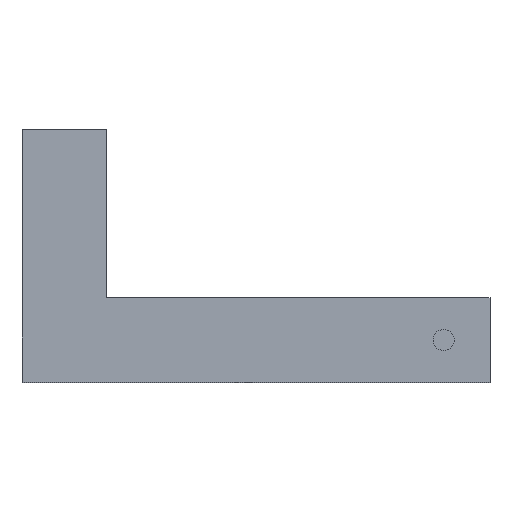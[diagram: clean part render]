
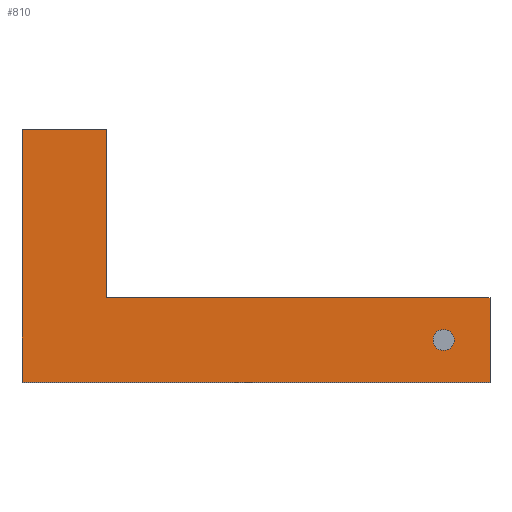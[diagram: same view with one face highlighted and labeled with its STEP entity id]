
A CAD part, top view. The second image highlights one B-rep face of the part: STEP entity #810.
In plain terms, the highlighted planar face has unit normal (0, 0, 1).
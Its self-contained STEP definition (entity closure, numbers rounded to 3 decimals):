
#4 = VERTEX_POINT ( 'NONE', #628 ) ;
#12 = LINE ( 'NONE', #55, #394 ) ;
#13 = LINE ( 'NONE', #403, #677 ) ;
#35 = EDGE_LOOP ( 'NONE', ( #773, #210 ) ) ;
#37 = LINE ( 'NONE', #427, #180 ) ;
#45 = CARTESIAN_POINT ( 'NONE',  ( 20.5, 2., 17. ) ) ;
#55 = CARTESIAN_POINT ( 'NONE',  ( 4., 12., 17. ) ) ;
#61 = DIRECTION ( 'NONE',  ( -1., 0., 0. ) ) ;
#76 = VERTEX_POINT ( 'NONE', #139 ) ;
#84 = ORIENTED_EDGE ( 'NONE', *, *, #592, .T. ) ;
#86 = VECTOR ( 'NONE', #470, 1000. ) ;
#102 = CARTESIAN_POINT ( 'NONE',  ( 4., 4., 17. ) ) ;
#138 = FACE_BOUND ( 'NONE', #35, .T. ) ;
#139 = CARTESIAN_POINT ( 'NONE',  ( 0., 0., 17. ) ) ;
#153 = DIRECTION ( 'NONE',  ( 0., -1., 0. ) ) ;
#166 = EDGE_CURVE ( 'NONE', #586, #618, #217, .T. ) ;
#171 = ORIENTED_EDGE ( 'NONE', *, *, #786, .T. ) ;
#180 = VECTOR ( 'NONE', #683, 1000. ) ;
#193 = EDGE_CURVE ( 'NONE', #4, #481, #13, .T. ) ;
#209 = DIRECTION ( 'NONE',  ( -1., 0., 0. ) ) ;
#210 = ORIENTED_EDGE ( 'NONE', *, *, #566, .F. ) ;
#213 = LINE ( 'NONE', #731, #245 ) ;
#217 = CIRCLE ( 'NONE', #428, 0.5 ) ;
#245 = VECTOR ( 'NONE', #153, 1000. ) ;
#252 = ORIENTED_EDGE ( 'NONE', *, *, #672, .T. ) ;
#268 = EDGE_LOOP ( 'NONE', ( #252, #84, #738, #643, #171, #520 ) ) ;
#280 = VECTOR ( 'NONE', #811, 1000. ) ;
#281 = CARTESIAN_POINT ( 'NONE',  ( 22.2, 0., 17. ) ) ;
#303 = CARTESIAN_POINT ( 'NONE',  ( 0., 12., 17. ) ) ;
#330 = CARTESIAN_POINT ( 'NONE',  ( 0., 12., 17. ) ) ;
#363 = AXIS2_PLACEMENT_3D ( 'NONE', #545, #604, #61 ) ;
#365 = CARTESIAN_POINT ( 'NONE',  ( 22.2, 0., 17. ) ) ;
#371 = CARTESIAN_POINT ( 'NONE',  ( 20., 2., 17. ) ) ;
#394 = VECTOR ( 'NONE', #487, 1000. ) ;
#400 = VERTEX_POINT ( 'NONE', #281 ) ;
#403 = CARTESIAN_POINT ( 'NONE',  ( 4., 4., 17. ) ) ;
#406 = CARTESIAN_POINT ( 'NONE',  ( 20., 2., 17. ) ) ;
#416 = PLANE ( 'NONE',  #363 ) ;
#425 = FACE_OUTER_BOUND ( 'NONE', #268, .T. ) ;
#427 = CARTESIAN_POINT ( 'NONE',  ( 22.2, 4., 17. ) ) ;
#428 = AXIS2_PLACEMENT_3D ( 'NONE', #406, #651, #472 ) ;
#470 = DIRECTION ( 'NONE',  ( -1., 0., 0. ) ) ;
#472 = DIRECTION ( 'NONE',  ( -1., 0., 0. ) ) ;
#481 = VERTEX_POINT ( 'NONE', #102 ) ;
#487 = DIRECTION ( 'NONE',  ( 0., 1., 0. ) ) ;
#520 = ORIENTED_EDGE ( 'NONE', *, *, #770, .T. ) ;
#534 = LINE ( 'NONE', #330, #86 ) ;
#545 = CARTESIAN_POINT ( 'NONE',  ( 0., 0., 17. ) ) ;
#566 = EDGE_CURVE ( 'NONE', #618, #586, #601, .T. ) ;
#586 = VERTEX_POINT ( 'NONE', #616 ) ;
#592 = EDGE_CURVE ( 'NONE', #400, #4, #37, .T. ) ;
#594 = AXIS2_PLACEMENT_3D ( 'NONE', #371, #805, #808 ) ;
#598 = EDGE_CURVE ( 'NONE', #481, #650, #12, .T. ) ;
#601 = CIRCLE ( 'NONE', #594, 0.5 ) ;
#604 = DIRECTION ( 'NONE',  ( 0., 0., -1. ) ) ;
#616 = CARTESIAN_POINT ( 'NONE',  ( 19.5, 2., 17. ) ) ;
#618 = VERTEX_POINT ( 'NONE', #45 ) ;
#628 = CARTESIAN_POINT ( 'NONE',  ( 22.2, 4., 17. ) ) ;
#633 = LINE ( 'NONE', #365, #280 ) ;
#643 = ORIENTED_EDGE ( 'NONE', *, *, #598, .T. ) ;
#650 = VERTEX_POINT ( 'NONE', #795 ) ;
#651 = DIRECTION ( 'NONE',  ( 0., 0., 1. ) ) ;
#659 = VERTEX_POINT ( 'NONE', #303 ) ;
#672 = EDGE_CURVE ( 'NONE', #76, #400, #633, .T. ) ;
#677 = VECTOR ( 'NONE', #209, 1000. ) ;
#683 = DIRECTION ( 'NONE',  ( 0., 1., 0. ) ) ;
#731 = CARTESIAN_POINT ( 'NONE',  ( 0., 0., 17. ) ) ;
#738 = ORIENTED_EDGE ( 'NONE', *, *, #193, .T. ) ;
#770 = EDGE_CURVE ( 'NONE', #659, #76, #213, .T. ) ;
#773 = ORIENTED_EDGE ( 'NONE', *, *, #166, .F. ) ;
#786 = EDGE_CURVE ( 'NONE', #650, #659, #534, .T. ) ;
#795 = CARTESIAN_POINT ( 'NONE',  ( 4., 12., 17. ) ) ;
#805 = DIRECTION ( 'NONE',  ( 0., 0., 1. ) ) ;
#808 = DIRECTION ( 'NONE',  ( -1., 0., 0. ) ) ;
#810 = ADVANCED_FACE ( 'NONE', ( #425, #138 ), #416, .F. ) ;
#811 = DIRECTION ( 'NONE',  ( 1., 0., 0. ) ) ;
